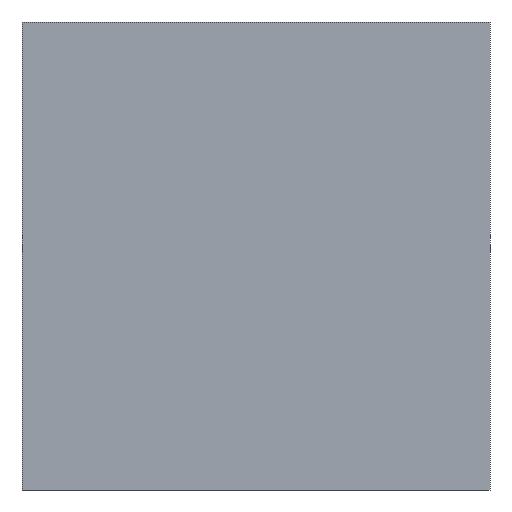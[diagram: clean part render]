
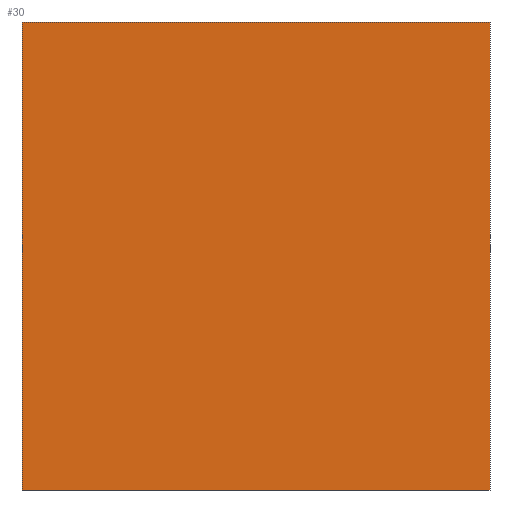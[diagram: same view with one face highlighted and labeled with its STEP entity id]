
A CAD part, front view. The second image highlights one B-rep face of the part: STEP entity #30.
In plain terms, the highlighted planar face has unit normal (0, -1, 0).
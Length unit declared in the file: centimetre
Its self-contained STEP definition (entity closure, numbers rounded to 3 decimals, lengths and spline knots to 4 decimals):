
#2 = AXIS2_PLACEMENT_3D ( 'NONE', #18, #59, #186 ) ;
#4 = DIRECTION ( 'NONE',  ( 0., 0., -1. ) ) ;
#6 = ORIENTED_EDGE ( 'NONE', *, *, #131, .F. ) ;
#8 = CARTESIAN_POINT ( 'NONE',  ( 0., 0., 1000. ) ) ;
#18 = CARTESIAN_POINT ( 'NONE',  ( 0., 0., 1000. ) ) ;
#27 = VECTOR ( 'NONE', #344, 100. ) ;
#30 = ADVANCED_FACE ( 'NONE', ( #238 ), #176, .F. ) ;
#31 = CARTESIAN_POINT ( 'NONE',  ( 1000., 0., 1000. ) ) ;
#35 = EDGE_CURVE ( 'NONE', #351, #236, #332, .T. ) ;
#50 = CARTESIAN_POINT ( 'NONE',  ( 0., 0., 1000. ) ) ;
#59 = DIRECTION ( 'NONE',  ( 0., 1., 0. ) ) ;
#99 = CARTESIAN_POINT ( 'NONE',  ( 1000., 0., 1000. ) ) ;
#102 = CARTESIAN_POINT ( 'NONE',  ( 1000., 0., 0. ) ) ;
#131 = EDGE_CURVE ( 'NONE', #351, #230, #191, .T. ) ;
#132 = LINE ( 'NONE', #187, #174 ) ;
#139 = EDGE_CURVE ( 'NONE', #230, #201, #248, .T. ) ;
#156 = CARTESIAN_POINT ( 'NONE',  ( 0., 0., 0. ) ) ;
#174 = VECTOR ( 'NONE', #305, 100. ) ;
#176 = PLANE ( 'NONE',  #2 ) ;
#179 = DIRECTION ( 'NONE',  ( 0., 0., -1. ) ) ;
#186 = DIRECTION ( 'NONE',  ( 0., 0., 1. ) ) ;
#187 = CARTESIAN_POINT ( 'NONE',  ( 0., 0., 0. ) ) ;
#191 = LINE ( 'NONE', #217, #27 ) ;
#201 = VERTEX_POINT ( 'NONE', #102 ) ;
#217 = CARTESIAN_POINT ( 'NONE',  ( 0., 0., 1000. ) ) ;
#230 = VERTEX_POINT ( 'NONE', #99 ) ;
#232 = ORIENTED_EDGE ( 'NONE', *, *, #234, .T. ) ;
#234 = EDGE_CURVE ( 'NONE', #236, #201, #132, .T. ) ;
#236 = VERTEX_POINT ( 'NONE', #156 ) ;
#238 = FACE_OUTER_BOUND ( 'NONE', #299, .T. ) ;
#248 = LINE ( 'NONE', #31, #249 ) ;
#249 = VECTOR ( 'NONE', #4, 100. ) ;
#291 = ORIENTED_EDGE ( 'NONE', *, *, #35, .T. ) ;
#299 = EDGE_LOOP ( 'NONE', ( #232, #368, #6, #291 ) ) ;
#305 = DIRECTION ( 'NONE',  ( 1., 0., 0. ) ) ;
#318 = VECTOR ( 'NONE', #179, 100. ) ;
#332 = LINE ( 'NONE', #50, #318 ) ;
#344 = DIRECTION ( 'NONE',  ( 1., 0., 0. ) ) ;
#351 = VERTEX_POINT ( 'NONE', #8 ) ;
#368 = ORIENTED_EDGE ( 'NONE', *, *, #139, .F. ) ;
